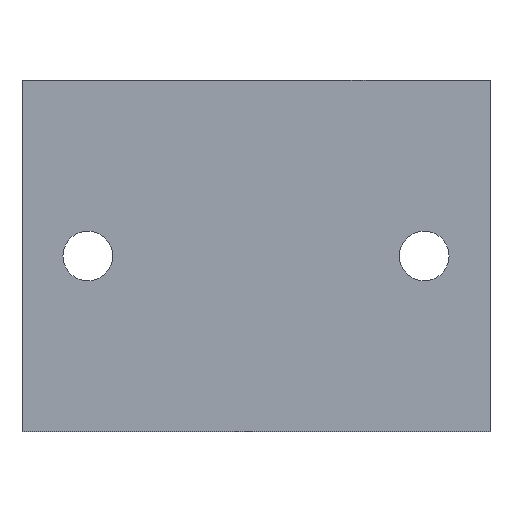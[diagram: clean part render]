
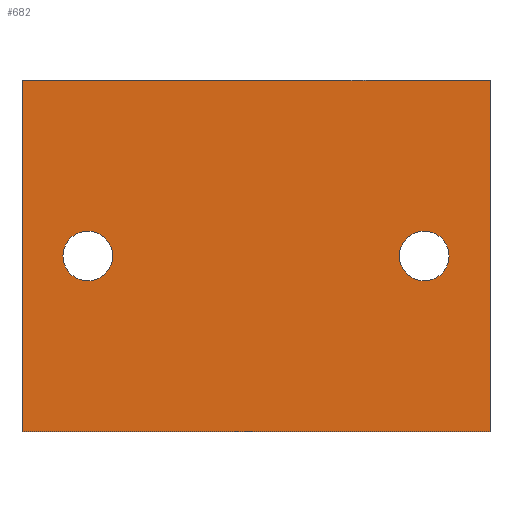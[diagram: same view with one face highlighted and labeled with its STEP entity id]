
A CAD part, front view. The second image highlights one B-rep face of the part: STEP entity #682.
In plain terms, the highlighted planar face has unit normal (0, -1, 0).
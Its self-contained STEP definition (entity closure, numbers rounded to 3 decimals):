
#33 = CARTESIAN_POINT ( 'NONE',  ( -11.5, -13.5, 0. ) ) ;
#43 = CARTESIAN_POINT ( 'NONE',  ( -11.5, -13.5, 0. ) ) ;
#72 = EDGE_CURVE ( 'NONE', #320, #292, #182, .T. ) ;
#81 = DIRECTION ( 'NONE',  ( 1., 0., 0. ) ) ;
#99 = FACE_BOUND ( 'NONE', #111, .T. ) ;
#100 = VERTEX_POINT ( 'NONE', #186 ) ;
#105 = VECTOR ( 'NONE', #405, 1000. ) ;
#109 = ORIENTED_EDGE ( 'NONE', *, *, #141, .F. ) ;
#111 = EDGE_LOOP ( 'NONE', ( #109, #510 ) ) ;
#113 = DIRECTION ( 'NONE',  ( 0., 0., -1. ) ) ;
#141 = EDGE_CURVE ( 'NONE', #638, #552, #554, .T. ) ;
#142 = EDGE_CURVE ( 'NONE', #100, #320, #658, .T. ) ;
#151 = CARTESIAN_POINT ( 'NONE',  ( -16., -13.5, 12. ) ) ;
#167 = CARTESIAN_POINT ( 'NONE',  ( -16., -13.5, 12. ) ) ;
#174 = DIRECTION ( 'NONE',  ( 0., -1., 0. ) ) ;
#182 = LINE ( 'NONE', #605, #105 ) ;
#186 = CARTESIAN_POINT ( 'NONE',  ( -16., -13.5, 12. ) ) ;
#187 = VECTOR ( 'NONE', #836, 1000. ) ;
#190 = CARTESIAN_POINT ( 'NONE',  ( -16., -13.5, 12. ) ) ;
#193 = DIRECTION ( 'NONE',  ( 0., 0., -1. ) ) ;
#227 = VECTOR ( 'NONE', #681, 1000. ) ;
#261 = ORIENTED_EDGE ( 'NONE', *, *, #893, .F. ) ;
#264 = CARTESIAN_POINT ( 'NONE',  ( 16., -13.5, -12. ) ) ;
#269 = CARTESIAN_POINT ( 'NONE',  ( 16., -13.5, 12. ) ) ;
#275 = CIRCLE ( 'NONE', #734, 1.7 ) ;
#292 = VERTEX_POINT ( 'NONE', #264 ) ;
#296 = PLANE ( 'NONE',  #574 ) ;
#308 = EDGE_LOOP ( 'NONE', ( #632, #261, #721, #712 ) ) ;
#316 = DIRECTION ( 'NONE',  ( 0., 1., 0. ) ) ;
#320 = VERTEX_POINT ( 'NONE', #332 ) ;
#323 = DIRECTION ( 'NONE',  ( 0., -1., 0. ) ) ;
#327 = VERTEX_POINT ( 'NONE', #472 ) ;
#332 = CARTESIAN_POINT ( 'NONE',  ( -16., -13.5, -12. ) ) ;
#336 = VECTOR ( 'NONE', #81, 1000. ) ;
#359 = LINE ( 'NONE', #403, #227 ) ;
#380 = CARTESIAN_POINT ( 'NONE',  ( -11.5, -13.5, -1.7 ) ) ;
#403 = CARTESIAN_POINT ( 'NONE',  ( 16., -13.5, 12. ) ) ;
#405 = DIRECTION ( 'NONE',  ( 1., 0., 0. ) ) ;
#472 = CARTESIAN_POINT ( 'NONE',  ( -11.5, -13.5, 1.7 ) ) ;
#490 = CARTESIAN_POINT ( 'NONE',  ( 11.5, -13.5, 1.7 ) ) ;
#493 = AXIS2_PLACEMENT_3D ( 'NONE', #686, #878, #549 ) ;
#495 = ORIENTED_EDGE ( 'NONE', *, *, #851, .F. ) ;
#503 = EDGE_LOOP ( 'NONE', ( #495, #623 ) ) ;
#510 = ORIENTED_EDGE ( 'NONE', *, *, #761, .F. ) ;
#515 = LINE ( 'NONE', #151, #336 ) ;
#543 = DIRECTION ( 'NONE',  ( 0., -1., 0. ) ) ;
#549 = DIRECTION ( 'NONE',  ( 0., 0., -1. ) ) ;
#552 = VERTEX_POINT ( 'NONE', #490 ) ;
#553 = CARTESIAN_POINT ( 'NONE',  ( 11.5, -13.5, 0. ) ) ;
#554 = CIRCLE ( 'NONE', #587, 1.7 ) ;
#565 = VERTEX_POINT ( 'NONE', #269 ) ;
#574 = AXIS2_PLACEMENT_3D ( 'NONE', #167, #316, #593 ) ;
#587 = AXIS2_PLACEMENT_3D ( 'NONE', #553, #543, #724 ) ;
#593 = DIRECTION ( 'NONE',  ( 0., 0., 1. ) ) ;
#605 = CARTESIAN_POINT ( 'NONE',  ( -16., -13.5, -12. ) ) ;
#623 = ORIENTED_EDGE ( 'NONE', *, *, #797, .F. ) ;
#632 = ORIENTED_EDGE ( 'NONE', *, *, #72, .T. ) ;
#638 = VERTEX_POINT ( 'NONE', #865 ) ;
#639 = EDGE_CURVE ( 'NONE', #100, #565, #515, .T. ) ;
#651 = FACE_BOUND ( 'NONE', #503, .T. ) ;
#658 = LINE ( 'NONE', #190, #187 ) ;
#681 = DIRECTION ( 'NONE',  ( 0., 0., -1. ) ) ;
#682 = ADVANCED_FACE ( 'NONE', ( #651, #99, #859 ), #296, .F. ) ;
#686 = CARTESIAN_POINT ( 'NONE',  ( 11.5, -13.5, 0. ) ) ;
#712 = ORIENTED_EDGE ( 'NONE', *, *, #142, .T. ) ;
#721 = ORIENTED_EDGE ( 'NONE', *, *, #639, .F. ) ;
#724 = DIRECTION ( 'NONE',  ( 0., 0., -1. ) ) ;
#734 = AXIS2_PLACEMENT_3D ( 'NONE', #43, #174, #113 ) ;
#743 = VERTEX_POINT ( 'NONE', #380 ) ;
#759 = AXIS2_PLACEMENT_3D ( 'NONE', #33, #323, #193 ) ;
#761 = EDGE_CURVE ( 'NONE', #552, #638, #862, .T. ) ;
#797 = EDGE_CURVE ( 'NONE', #327, #743, #275, .T. ) ;
#806 = CIRCLE ( 'NONE', #759, 1.7 ) ;
#836 = DIRECTION ( 'NONE',  ( 0., 0., -1. ) ) ;
#851 = EDGE_CURVE ( 'NONE', #743, #327, #806, .T. ) ;
#859 = FACE_OUTER_BOUND ( 'NONE', #308, .T. ) ;
#862 = CIRCLE ( 'NONE', #493, 1.7 ) ;
#865 = CARTESIAN_POINT ( 'NONE',  ( 11.5, -13.5, -1.7 ) ) ;
#878 = DIRECTION ( 'NONE',  ( 0., -1., 0. ) ) ;
#893 = EDGE_CURVE ( 'NONE', #565, #292, #359, .T. ) ;
